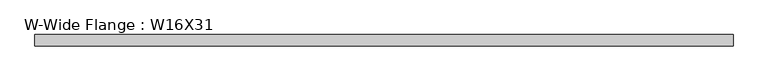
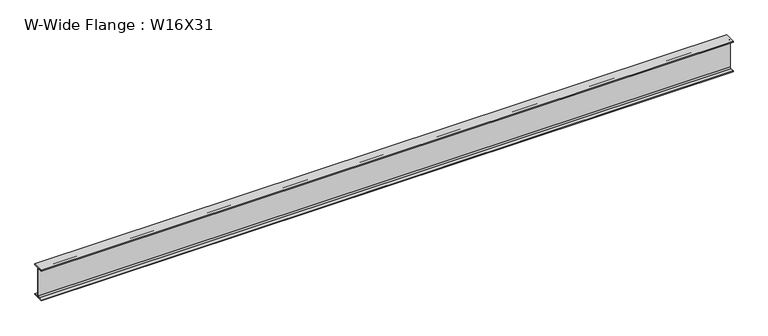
"""IFC4 building model written with IfcOpenShell, lengths in millimetres: beam geometry, W-Wide Flange : W16X31."""

from ifc_helpers import new_model, si_unit, point, frame, frame_2d, origin, place, context, project, spatial, polyline, circle_curve, trimmed, segment, composite_curve, outline, extrude, source, transform, mapped, element, save


def w_wide_flange_w16x31_d553f2e7(model_context):
    return source(origin(), model_context, "Body", "SweptSolid", [
        extrude(outline(composite_curve([segment(polyline([(70.231, -190.754), (70.231, -201.93), (-70.231, -201.93), (-70.231, -190.754), (-20.8915, -190.754)]), True, "CONTINUOUS"), segment(trimmed(circle_curve(frame_2d((-20.8915, -173.355)), 17.399), [point((-20.8915, -190.754))], [point((-3.4925, -173.355))], True, "CARTESIAN"), True, "CONTINUOUS"), segment(polyline([(-3.4925, -173.355), (-3.4925, 173.355)]), True, "CONTINUOUS"), segment(trimmed(circle_curve(frame_2d((-20.8915, 173.355)), 17.399), [point((-3.4925, 173.355))], [point((-20.8915, 190.754))], True, "CARTESIAN"), True, "CONTINUOUS"), segment(polyline([(-20.8915, 190.754), (-70.231, 190.754), (-70.231, 201.93), (70.231, 201.93), (70.231, 190.754), (20.8915, 190.754)]), True, "CONTINUOUS"), segment(trimmed(circle_curve(frame_2d((20.8915, 173.355)), 17.399), [point((20.8915, 190.754))], [point((3.4925, 173.355))], True, "CARTESIAN"), True, "CONTINUOUS"), segment(polyline([(3.4925, 173.355), (3.4925, -173.355)]), True, "CONTINUOUS"), segment(trimmed(circle_curve(frame_2d((20.8915, -173.355)), 17.399), [point((3.4925, -173.355))], [point((20.8915, -190.754))], True, "CARTESIAN"), True, "CONTINUOUS"), segment(polyline([(20.8915, -190.754), (70.231, -190.754)]), True, "CONTINUOUS")], self_intersect=False)), frame((-4336.669, 0.0, 0.0), z_axis=(1.0, 0.0, 0.0), x_axis=(0.0, 1.0, 0.0)), (0.0, 0.0, 1.0), 8673.338),
    ])


if __name__ == "__main__":
    model = new_model("IFC4")
    model_context = context("Model", 3, world=origin())
    ifc_project = project(units=[si_unit("LENGTHUNIT", "METRE", prefix="MILLI")], contexts=[model_context])
    site = spatial("IfcSite", under=ifc_project)
    building = spatial("IfcBuilding", under=site)
    placement = place(None, origin())
    w_wide_flange_w16x31_shape = w_wide_flange_w16x31_d553f2e7(model_context)
    element("IfcBeam", 1, ObjectType="W-Wide Flange : W16X31", at=placement, inside=building, context=model_context, shape_type="MappedRepresentation", body=[
        mapped(w_wide_flange_w16x31_shape, transform((0.0, 0.0, 0.0), x_axis=(1.0, 0.0, 0.0), y_axis=(0.0, 1.0, 0.0), z_axis=(0.0, 0.0, 1.0))),
    ])
    save(model, "model.ifc")
